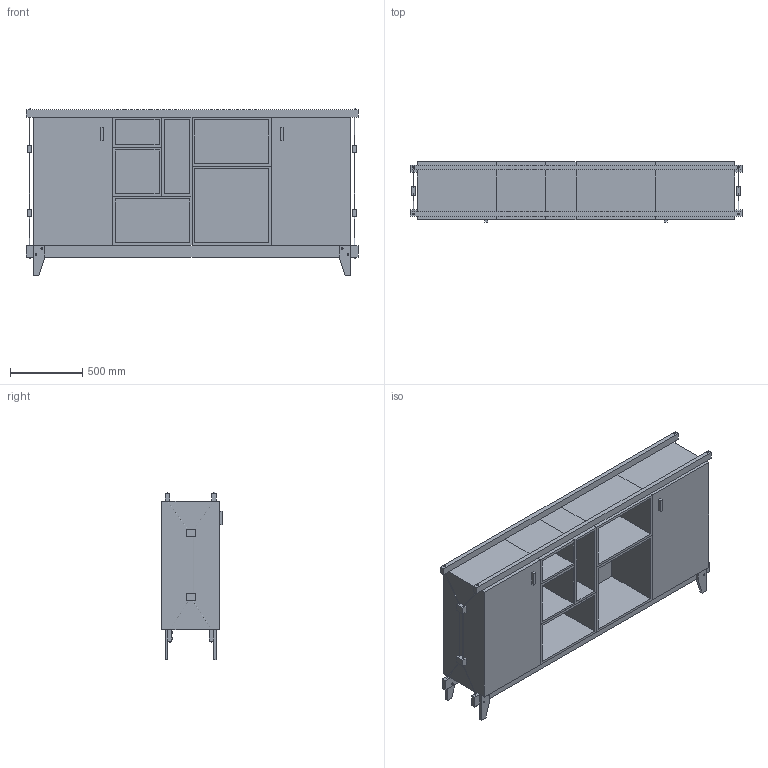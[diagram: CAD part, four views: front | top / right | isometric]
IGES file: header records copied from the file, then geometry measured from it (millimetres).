
Start section: Data from Parasolid IGES Translator 17.0.49, Copyright(c) 2006 Siemens P LM Software. All Rights Reserved.
Global section: file name: Saam I.igs; native system: By Siemens PLM Incorporated; preprocessor: XPlus GENERIC/IGES 17.0.49; author: Noname; organization: Noname; date: 20170605.062942; units: metre
Bounding box: 2300 x 418 x 1162 mm (x, y, z)
Volume: 491946472.8 mm3; surface area: 15456948.6 mm2
Topology: 36 solids, 36 shells, 240 faces, 476 edges, 316 vertices
Faces by surface type: plane 204, cylinder 28, sphere 8
Full cylindrical faces by diameter (mm): 3 x12, 12 x16
